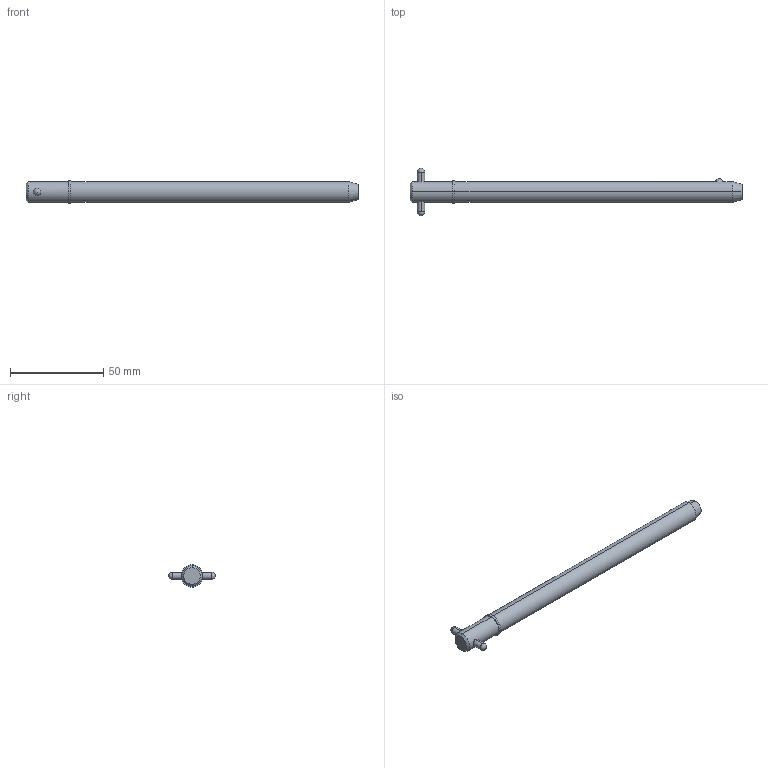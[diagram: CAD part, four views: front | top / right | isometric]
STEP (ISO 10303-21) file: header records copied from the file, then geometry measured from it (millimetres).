
FILE_DESCRIPTION (( 'STEP AP203' ), '1' );
FILE_NAME ('33018.W4355.step', '2024-11-19T17:13:57', ( '' ), ( '' ), 'SwSTEP 2.0', 'SolidWorks 2019', '' );
FILE_SCHEMA (( 'CONFIG_CONTROL_DESIGN' ));
Length unit declared in the file: millimetre
Products named in the file (3): Part1_33018.W4355; Part2_33018.W4355; 33018.W4355
Assembly tree (2 placements, depth 2):
  33018.W4355
    Part1_33018.W4355
    Part2_33018.W4355
Bounding box: 178.1 x 25.4 x 12.22 mm (x, y, z)
Volume: 17326.9 mm3; surface area: 6804.3 mm2
Topology: 2 solids, 2 shells, 22 faces, 47 edges, 30 vertices
Faces by surface type: cylinder 10, sphere 4, cone 4, plane 4
Entity records: 1031 total; most frequent: CARTESIAN_POINT 274, DIRECTION 110, ORIENTED_EDGE 82, AXIS2_PLACEMENT_3D 48, EDGE_CURVE 41, EDGE_LOOP 27, PERSON_AND_ORGANIZATION 26, VERTEX_POINT 26
